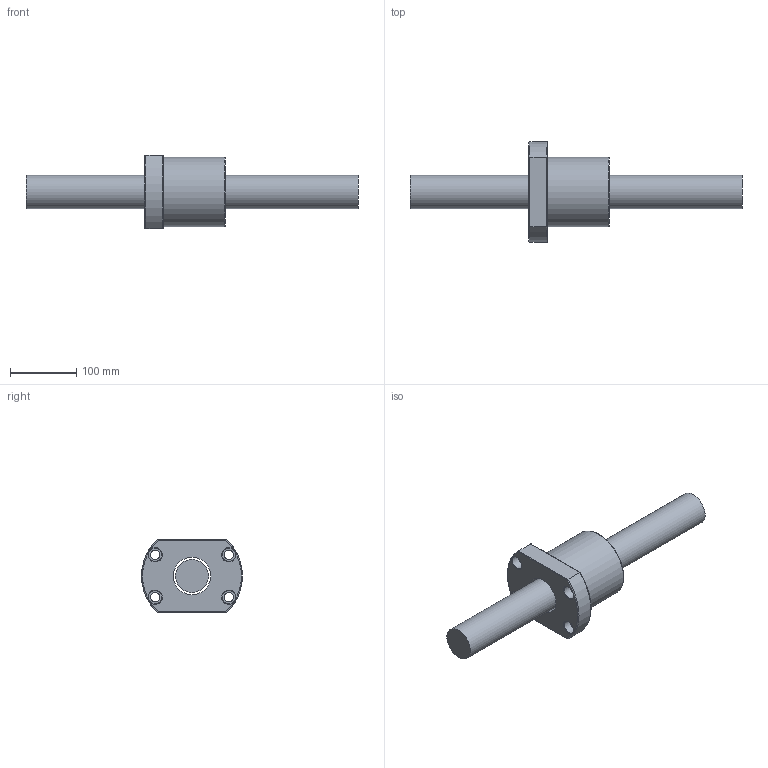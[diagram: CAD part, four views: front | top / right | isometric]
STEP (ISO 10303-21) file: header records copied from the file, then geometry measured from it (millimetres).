
FILE_DESCRIPTION (( 'STEP AP203' ), '1' );
FILE_NAME ('SFV05020D-2.7.step', '2024-05-20T03:40:08', ( '' ), ( '' ), 'SwSTEP 2.0', 'SolidWorks 2022', '' );
FILE_SCHEMA (( 'CONFIG_CONTROL_DESIGN' ));
Length unit declared in the file: millimetre
Products named in the file (1): SFV05020D-2.7
Bounding box: 500 x 152 x 110 mm (x, y, z)
Volume: 1880811.5 mm3; surface area: 177055.7 mm2
Topology: 2 solids, 2 shells, 54 faces, 140 edges, 91 vertices
Faces by surface type: cylinder 20, plane 16, cone 9, torus 5, bspline 4
Full cylindrical faces by diameter (mm): 4 x1, 7 x5, 14 x4, 20 x4, 50 x1, 56.4 x1, 105 x1
Entity records: 3199 total; most frequent: CARTESIAN_POINT 2113, DIRECTION 198, ORIENTED_EDGE 182, EDGE_CURVE 91, AXIS2_PLACEMENT_3D 91, EDGE_LOOP 86, VERTEX_POINT 71, FACE_OUTER_BOUND 64
